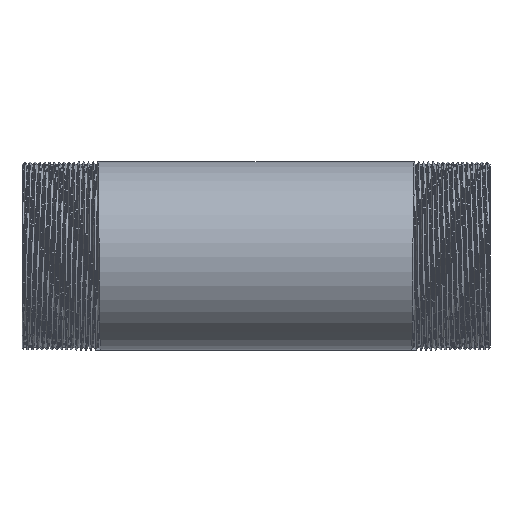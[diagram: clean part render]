
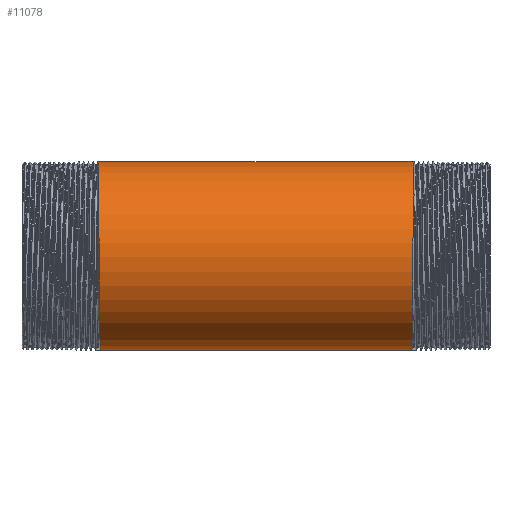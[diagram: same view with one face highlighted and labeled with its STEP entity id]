
A CAD part, front view. The second image highlights one B-rep face of the part: STEP entity #11078.
In plain terms, the highlighted cylindrical face has radius 24.15 mm (diameter 48.3 mm), a partial arc.
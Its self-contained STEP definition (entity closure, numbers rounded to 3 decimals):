
#91 = VECTOR ( 'NONE', #7752, 1000. ) ;
#292 = EDGE_CURVE ( 'NONE', #12199, #3795, #297, .T. ) ;
#297 =( BOUNDED_CURVE ( )  B_SPLINE_CURVE ( 2, ( #12940, #2992, #11846, #2725, #7126, #13819, #11558, #1641, #552 ),
 .UNSPECIFIED., .F., .F. ) 
 B_SPLINE_CURVE_WITH_KNOTS ( ( 3, 2, 2, 2, 3 ),
 ( 0., 0.006, 0.013, 0.019, 0.025 ),
 .UNSPECIFIED. ) 
 CURVE ( )  GEOMETRIC_REPRESENTATION_ITEM ( )  RATIONAL_B_SPLINE_CURVE ( ( 1., 0.924, 1., 0.924, 1., 0.924, 1., 0.924, 1. ) ) 
 REPRESENTATION_ITEM ( '' )  );
#552 = CARTESIAN_POINT ( 'NONE',  ( -40.531, 0., 24.15 ) ) ;
#621 =( BOUNDED_CURVE ( )  B_SPLINE_CURVE ( 2, ( #10871, #9499, #946, #8537, #9783, #11673, #14216, #11816, #1895 ),
 .UNSPECIFIED., .F., .F. ) 
 B_SPLINE_CURVE_WITH_KNOTS ( ( 3, 2, 2, 2, 3 ),
 ( 0., 0.006, 0.013, 0.019, 0.025 ),
 .UNSPECIFIED. ) 
 CURVE ( )  GEOMETRIC_REPRESENTATION_ITEM ( )  RATIONAL_B_SPLINE_CURVE ( ( 1., 0.924, 1., 0.924, 1., 0.924, 1., 0.924, 1. ) ) 
 REPRESENTATION_ITEM ( '' )  );
#946 = CARTESIAN_POINT ( 'NONE',  ( 40.063, -17.077, -17.077 ) ) ;
#1100 = CARTESIAN_POINT ( 'NONE',  ( -149.494, 0., 24.15 ) ) ;
#1181 = ORIENTED_EDGE ( 'NONE', *, *, #13545, .F. ) ;
#1239 = ORIENTED_EDGE ( 'NONE', *, *, #9420, .T. ) ;
#1641 = CARTESIAN_POINT ( 'NONE',  ( -40.453, -10.003, 24.15 ) ) ;
#1815 = CARTESIAN_POINT ( 'NONE',  ( 39.906, 0., -24.15 ) ) ;
#1895 = CARTESIAN_POINT ( 'NONE',  ( 40.531, 0., 24.15 ) ) ;
#2487 = DIRECTION ( 'NONE',  ( 0., 0., 1. ) ) ;
#2725 = CARTESIAN_POINT ( 'NONE',  ( -40.141, -24.15, -10.003 ) ) ;
#2992 = CARTESIAN_POINT ( 'NONE',  ( -39.984, -10.003, -24.15 ) ) ;
#3786 = VERTEX_POINT ( 'NONE', #1815 ) ;
#3795 = VERTEX_POINT ( 'NONE', #6144 ) ;
#4044 = CARTESIAN_POINT ( 'NONE',  ( -149.494, 0., -24.15 ) ) ;
#4417 = CARTESIAN_POINT ( 'NONE',  ( -39.906, 0., -24.15 ) ) ;
#4495 = DIRECTION ( 'NONE',  ( -1., 0., 0. ) ) ;
#5506 = FACE_OUTER_BOUND ( 'NONE', #10091, .T. ) ;
#5574 = ORIENTED_EDGE ( 'NONE', *, *, #292, .F. ) ;
#5644 = ORIENTED_EDGE ( 'NONE', *, *, #9172, .T. ) ;
#5657 = CARTESIAN_POINT ( 'NONE',  ( -149.494, 0., 0. ) ) ;
#6144 = CARTESIAN_POINT ( 'NONE',  ( -40.531, 0., 24.15 ) ) ;
#6758 = CARTESIAN_POINT ( 'NONE',  ( 40.531, 0., 24.15 ) ) ;
#6893 = CYLINDRICAL_SURFACE ( 'NONE', #9479, 24.15 ) ;
#7126 = CARTESIAN_POINT ( 'NONE',  ( -40.219, -24.15, 0. ) ) ;
#7752 = DIRECTION ( 'NONE',  ( -1., 0., 0. ) ) ;
#8177 = DIRECTION ( 'NONE',  ( -1., 0., 0. ) ) ;
#8537 = CARTESIAN_POINT ( 'NONE',  ( 40.141, -24.15, -10.003 ) ) ;
#9172 = EDGE_CURVE ( 'NONE', #9951, #3795, #11096, .T. ) ;
#9420 = EDGE_CURVE ( 'NONE', #3786, #9951, #621, .T. ) ;
#9479 = AXIS2_PLACEMENT_3D ( 'NONE', #5657, #4495, #2487 ) ;
#9499 = CARTESIAN_POINT ( 'NONE',  ( 39.984, -10.003, -24.15 ) ) ;
#9783 = CARTESIAN_POINT ( 'NONE',  ( 40.219, -24.15, 0. ) ) ;
#9951 = VERTEX_POINT ( 'NONE', #6758 ) ;
#10091 = EDGE_LOOP ( 'NONE', ( #1181, #1239, #5644, #5574 ) ) ;
#10850 = VECTOR ( 'NONE', #8177, 1000. ) ;
#10871 = CARTESIAN_POINT ( 'NONE',  ( 39.906, 0., -24.15 ) ) ;
#11078 = ADVANCED_FACE ( 'NONE', ( #5506 ), #6893, .T. ) ;
#11096 = LINE ( 'NONE', #1100, #91 ) ;
#11558 = CARTESIAN_POINT ( 'NONE',  ( -40.375, -17.077, 17.077 ) ) ;
#11595 = LINE ( 'NONE', #4044, #10850 ) ;
#11673 = CARTESIAN_POINT ( 'NONE',  ( 40.297, -24.15, 10.003 ) ) ;
#11816 = CARTESIAN_POINT ( 'NONE',  ( 40.453, -10.003, 24.15 ) ) ;
#11846 = CARTESIAN_POINT ( 'NONE',  ( -40.063, -17.077, -17.077 ) ) ;
#12199 = VERTEX_POINT ( 'NONE', #4417 ) ;
#12940 = CARTESIAN_POINT ( 'NONE',  ( -39.906, 0., -24.15 ) ) ;
#13545 = EDGE_CURVE ( 'NONE', #3786, #12199, #11595, .T. ) ;
#13819 = CARTESIAN_POINT ( 'NONE',  ( -40.297, -24.15, 10.003 ) ) ;
#14216 = CARTESIAN_POINT ( 'NONE',  ( 40.375, -17.077, 17.077 ) ) ;
